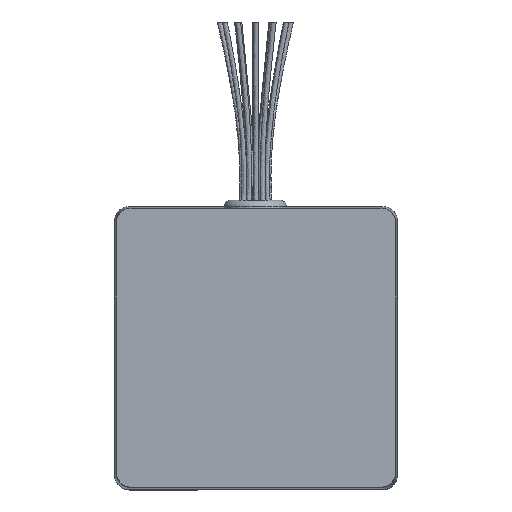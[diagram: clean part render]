
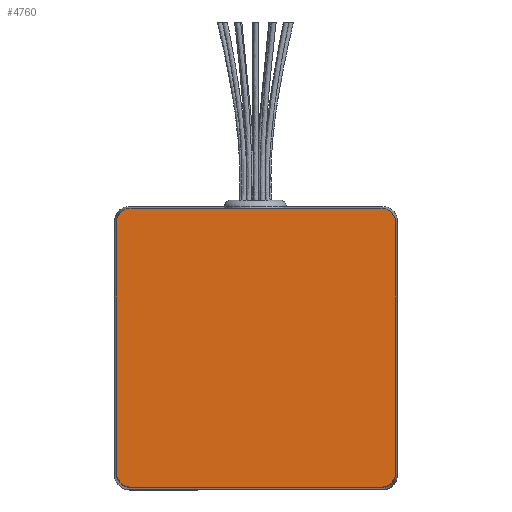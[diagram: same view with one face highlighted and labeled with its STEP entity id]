
A CAD part, top view. The second image highlights one B-rep face of the part: STEP entity #4760.
In plain terms, the highlighted planar face has unit normal (0, 0, 1).
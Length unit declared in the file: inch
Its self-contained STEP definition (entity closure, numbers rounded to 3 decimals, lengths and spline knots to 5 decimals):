
#4133=CARTESIAN_POINT('',(-1.0065,1.125,4.646));
#4134=VERTEX_POINT('',#4133);
#4141=CARTESIAN_POINT('',(1.0065,1.125,4.646));
#4142=VERTEX_POINT('',#4141);
#4143=CARTESIAN_POINT('',(-1.0065,1.125,4.646));
#4144=DIRECTION('',(1.0,0.0,0.0));
#4145=VECTOR('',#4144,2.013);
#4146=LINE('',#4143,#4145);
#4147=EDGE_CURVE('',#4134,#4142,#4146,.T.);
#4485=CARTESIAN_POINT('',(1.125,-1.0065,4.646));
#4486=VERTEX_POINT('',#4485);
#4487=CARTESIAN_POINT('',(1.0065,-1.125,4.646));
#4488=VERTEX_POINT('',#4487);
#4489=CARTESIAN_POINT('',(1.0065,-1.0065,4.646));
#4490=DIRECTION('',(0.0,0.0,-1.));
#4491=DIRECTION('',(0.707,-0.707,0.0));
#4492=AXIS2_PLACEMENT_3D('',#4489,#4490,#4491);
#4493=CIRCLE('',#4492,0.1185);
#4494=EDGE_CURVE('',#4486,#4488,#4493,.T.);
#4585=CARTESIAN_POINT('',(-1.0065,-1.125,4.646));
#4586=VERTEX_POINT('',#4585);
#4587=CARTESIAN_POINT('',(1.0065,-1.125,4.646));
#4588=DIRECTION('',(-1.0,0.0,0.0));
#4589=VECTOR('',#4588,2.013);
#4590=LINE('',#4587,#4589);
#4591=EDGE_CURVE('',#4488,#4586,#4590,.T.);
#4624=CARTESIAN_POINT('',(-1.125,-1.0065,4.646));
#4625=VERTEX_POINT('',#4624);
#4626=CARTESIAN_POINT('',(-1.0065,-1.0065,4.646));
#4627=DIRECTION('',(0.0,0.0,-1.));
#4628=DIRECTION('',(-0.707,-0.707,0.0));
#4629=AXIS2_PLACEMENT_3D('',#4626,#4627,#4628);
#4630=CIRCLE('',#4629,0.1185);
#4631=EDGE_CURVE('',#4586,#4625,#4630,.T.);
#4707=CARTESIAN_POINT('',(-1.125,1.0065,4.646));
#4708=VERTEX_POINT('',#4707);
#4709=CARTESIAN_POINT('',(-1.0065,1.0065,4.646));
#4710=DIRECTION('',(0.0,0.0,-1.));
#4711=DIRECTION('',(-0.707,0.707,0.0));
#4712=AXIS2_PLACEMENT_3D('',#4709,#4710,#4711);
#4713=CIRCLE('',#4712,0.1185);
#4714=EDGE_CURVE('',#4708,#4134,#4713,.T.);
#4727=CARTESIAN_POINT('',(0.0,0.,4.646));
#4728=DIRECTION('',(0.0,0.0,1.0));
#4729=DIRECTION('',(1.0,0.0,0.0));
#4730=AXIS2_PLACEMENT_3D('',#4727,#4728,#4729);
#4731=PLANE('',#4730);
#4732=ORIENTED_EDGE('',*,*,#4494,.F.);
#4733=CARTESIAN_POINT('',(1.125,1.0065,4.646));
#4734=VERTEX_POINT('',#4733);
#4735=CARTESIAN_POINT('',(1.125,1.0065,4.646));
#4736=DIRECTION('',(0.0,-1.0,0.0));
#4737=VECTOR('',#4736,2.013);
#4738=LINE('',#4735,#4737);
#4739=EDGE_CURVE('',#4734,#4486,#4738,.T.);
#4740=ORIENTED_EDGE('',*,*,#4739,.F.);
#4741=CARTESIAN_POINT('',(1.0065,1.0065,4.646));
#4742=DIRECTION('',(0.0,0.0,-1.));
#4743=DIRECTION('',(0.707,0.707,0.0));
#4744=AXIS2_PLACEMENT_3D('',#4741,#4742,#4743);
#4745=CIRCLE('',#4744,0.1185);
#4746=EDGE_CURVE('',#4142,#4734,#4745,.T.);
#4747=ORIENTED_EDGE('',*,*,#4746,.F.);
#4748=ORIENTED_EDGE('',*,*,#4147,.F.);
#4749=ORIENTED_EDGE('',*,*,#4714,.F.);
#4750=CARTESIAN_POINT('',(-1.125,-1.0065,4.646));
#4751=DIRECTION('',(0.0,1.0,0.0));
#4752=VECTOR('',#4751,2.013);
#4753=LINE('',#4750,#4752);
#4754=EDGE_CURVE('',#4625,#4708,#4753,.T.);
#4755=ORIENTED_EDGE('',*,*,#4754,.F.);
#4756=ORIENTED_EDGE('',*,*,#4631,.F.);
#4757=ORIENTED_EDGE('',*,*,#4591,.F.);
#4758=EDGE_LOOP('',(#4732,#4740,#4747,#4748,#4749,#4755,#4756,#4757));
#4759=FACE_OUTER_BOUND('',#4758,.T.);
#4760=ADVANCED_FACE('',(#4759),#4731,.T.);
